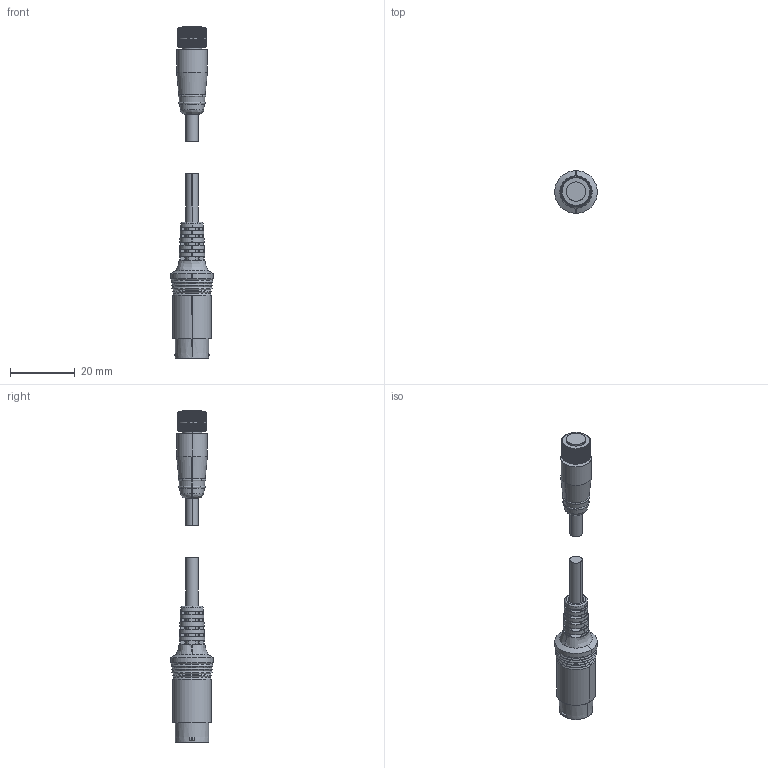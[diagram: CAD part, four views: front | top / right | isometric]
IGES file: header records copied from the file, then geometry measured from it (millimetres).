
Start section: SolidWorks IGES file using analytic representation for surfaces
Bounding box: 13.2 x 13.2 x 102.8 mm (x, y, z)
Surface area: 3417.7 mm2 (no closed solid volume)
Topology: 0 solids, 0 shells, 404 faces, 3412 edges, 3412 vertices
Faces by surface type: bspline 233, revolution 171
